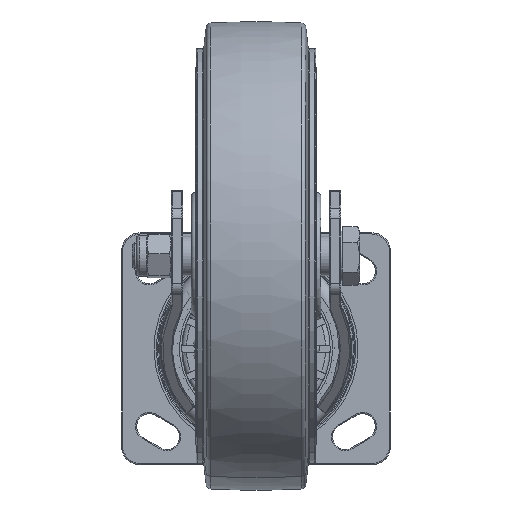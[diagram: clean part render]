
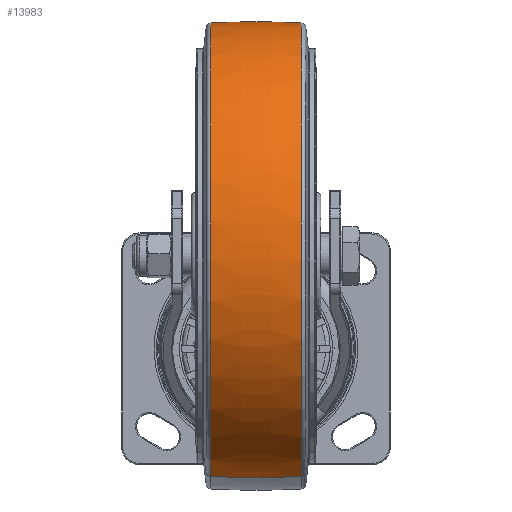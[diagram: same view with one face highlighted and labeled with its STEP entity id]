
A CAD part, front view. The second image highlights one B-rep face of the part: STEP entity #13983.
In plain terms, the highlighted toroidal (fillet/blend) face has major radius 282.004 mm and minor radius 383.004 mm.
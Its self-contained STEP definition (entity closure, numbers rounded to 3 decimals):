
#2598 = VERTEX_POINT ( 'NONE', #41418 ) ;
#2921 = CARTESIAN_POINT ( 'NONE',  ( 282.004, 0., 0. ) ) ;
#4574 = CARTESIAN_POINT ( 'NONE',  ( 0., 0., -19.615 ) ) ;
#5385 = CIRCLE ( 'NONE', #26893, 100.497 ) ;
#8392 = EDGE_CURVE ( 'NONE', #2598, #18165, #15281, .T. ) ;
#8778 = ORIENTED_EDGE ( 'NONE', *, *, #8392, .F. ) ;
#10073 = AXIS2_PLACEMENT_3D ( 'NONE', #45176, #39292, #30837 ) ;
#11307 = DIRECTION ( 'NONE',  ( 0., 0., 1. ) ) ;
#11976 = TOROIDAL_SURFACE ( 'NONE', #10073, -282.004, 383.004 ) ;
#13983 = ADVANCED_FACE ( 'NONE', ( #22887 ), #11976, .T. ) ;
#15281 = CIRCLE ( 'NONE', #19719, 383.004 ) ;
#15855 = VERTEX_POINT ( 'NONE', #38529 ) ;
#17700 = AXIS2_PLACEMENT_3D ( 'NONE', #2921, #28572, #35907 ) ;
#18165 = VERTEX_POINT ( 'NONE', #31651 ) ;
#18995 = DIRECTION ( 'NONE',  ( 1., 0., 0. ) ) ;
#19719 = AXIS2_PLACEMENT_3D ( 'NONE', #20464, #23652, #38020 ) ;
#20464 = CARTESIAN_POINT ( 'NONE',  ( -282.004, 0., 0. ) ) ;
#22430 = CARTESIAN_POINT ( 'NONE',  ( 0., 0., 19.615 ) ) ;
#22887 = FACE_OUTER_BOUND ( 'NONE', #22904, .T. ) ;
#22904 = EDGE_LOOP ( 'NONE', ( #34749, #38811, #35171, #8778 ) ) ;
#23047 = CARTESIAN_POINT ( 'NONE',  ( -100.497, 0., -19.615 ) ) ;
#23652 = DIRECTION ( 'NONE',  ( 0., -1., 0. ) ) ;
#25247 = EDGE_CURVE ( 'NONE', #2598, #44694, #5385, .T. ) ;
#25605 = EDGE_CURVE ( 'NONE', #44694, #15855, #43757, .T. ) ;
#26893 = AXIS2_PLACEMENT_3D ( 'NONE', #4574, #11307, #18995 ) ;
#28572 = DIRECTION ( 'NONE',  ( 0., 1., 0. ) ) ;
#30837 = DIRECTION ( 'NONE',  ( -1., 0., 0. ) ) ;
#31651 = CARTESIAN_POINT ( 'NONE',  ( 100.497, 0., 19.615 ) ) ;
#32845 = EDGE_CURVE ( 'NONE', #18165, #15855, #45511, .T. ) ;
#34749 = ORIENTED_EDGE ( 'NONE', *, *, #25247, .T. ) ;
#35171 = ORIENTED_EDGE ( 'NONE', *, *, #32845, .F. ) ;
#35907 = DIRECTION ( 'NONE',  ( -1., 0., 0. ) ) ;
#38020 = DIRECTION ( 'NONE',  ( 0., 0., -1. ) ) ;
#38529 = CARTESIAN_POINT ( 'NONE',  ( -100.497, 0., 19.615 ) ) ;
#38811 = ORIENTED_EDGE ( 'NONE', *, *, #25605, .T. ) ;
#39292 = DIRECTION ( 'NONE',  ( 0., 0., 1. ) ) ;
#40162 = DIRECTION ( 'NONE',  ( 1., 0., 0. ) ) ;
#40311 = DIRECTION ( 'NONE',  ( 0., 0., 1. ) ) ;
#41418 = CARTESIAN_POINT ( 'NONE',  ( 100.497, 0., -19.615 ) ) ;
#43757 = CIRCLE ( 'NONE', #17700, 383.004 ) ;
#44694 = VERTEX_POINT ( 'NONE', #23047 ) ;
#45176 = CARTESIAN_POINT ( 'NONE',  ( 0., 0., 0. ) ) ;
#45511 = CIRCLE ( 'NONE', #45787, 100.497 ) ;
#45787 = AXIS2_PLACEMENT_3D ( 'NONE', #22430, #40311, #40162 ) ;
